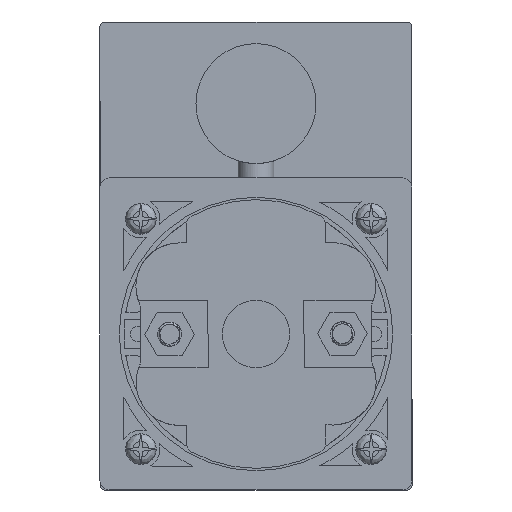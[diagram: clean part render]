
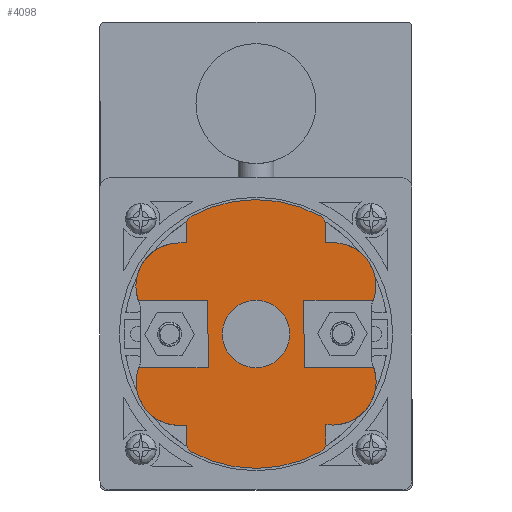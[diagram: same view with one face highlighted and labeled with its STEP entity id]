
A CAD part, front view. The second image highlights one B-rep face of the part: STEP entity #4098.
In plain terms, the highlighted planar face has unit normal (0, -1, 0).
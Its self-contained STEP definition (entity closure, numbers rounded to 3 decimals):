
#4098=ADVANCED_FACE('',(#9048,#9049),#4992,.F.);
#4992=PLANE('',#27135);
#6481=LINE('',#116121,#8249);
#6484=LINE('',#116127,#8252);
#6488=LINE('',#116139,#8256);
#6491=LINE('',#116147,#8259);
#6493=LINE('',#116151,#8261);
#6495=LINE('',#116155,#8263);
#6497=LINE('',#116171,#8265);
#6501=LINE('',#116192,#8269);
#6503=LINE('',#116209,#8271);
#6505=LINE('',#116213,#8273);
#6610=LINE('',#116503,#8378);
#6615=LINE('',#116515,#8383);
#6650=LINE('',#116629,#8418);
#6654=LINE('',#116651,#8422);
#8249=VECTOR('',#32302,1.);
#8252=VECTOR('',#32307,1.);
#8256=VECTOR('',#32319,1.);
#8259=VECTOR('',#32328,1.);
#8261=VECTOR('',#32332,1.);
#8263=VECTOR('',#32336,1.);
#8265=VECTOR('',#32344,1.);
#8269=VECTOR('',#32354,1.);
#8271=VECTOR('',#32364,1.);
#8273=VECTOR('',#32368,1.);
#8378=VECTOR('',#32649,1.);
#8383=VECTOR('',#32664,1.);
#8418=VECTOR('',#32765,1.);
#8422=VECTOR('',#32791,1.);
#9048=FACE_BOUND('',#10483,.T.);
#9049=FACE_BOUND('',#10484,.T.);
#10483=EDGE_LOOP('',(#16930,#16931,#16932,#16933,#16934,#16935,#16936,#16937,
#16938,#16939,#16940,#16941,#16942,#16943,#16944,#16945,#16946,#16947,#16948,
#16949,#16950,#16951,#16952,#16953,#16954));
#10484=EDGE_LOOP('',(#16955));
#16930=ORIENTED_EDGE('',*,*,#23523,.F.);
#16931=ORIENTED_EDGE('',*,*,#23521,.T.);
#16932=ORIENTED_EDGE('',*,*,#23517,.T.);
#16933=ORIENTED_EDGE('',*,*,#23668,.T.);
#16934=ORIENTED_EDGE('',*,*,#23736,.T.);
#16935=ORIENTED_EDGE('',*,*,#23737,.T.);
#16936=ORIENTED_EDGE('',*,*,#23738,.T.);
#16937=ORIENTED_EDGE('',*,*,#23676,.T.);
#16938=ORIENTED_EDGE('',*,*,#23513,.T.);
#16939=ORIENTED_EDGE('',*,*,#23510,.T.);
#16940=ORIENTED_EDGE('',*,*,#23507,.T.);
#16941=ORIENTED_EDGE('',*,*,#23505,.F.);
#16942=ORIENTED_EDGE('',*,*,#23503,.F.);
#16943=ORIENTED_EDGE('',*,*,#23501,.F.);
#16944=ORIENTED_EDGE('',*,*,#23499,.T.);
#16945=ORIENTED_EDGE('',*,*,#23497,.T.);
#16946=ORIENTED_EDGE('',*,*,#23729,.T.);
#16947=ORIENTED_EDGE('',*,*,#23739,.T.);
#16948=ORIENTED_EDGE('',*,*,#23740,.T.);
#16949=ORIENTED_EDGE('',*,*,#23741,.T.);
#16950=ORIENTED_EDGE('',*,*,#23742,.T.);
#16951=ORIENTED_EDGE('',*,*,#23525,.T.);
#16952=ORIENTED_EDGE('',*,*,#23494,.T.);
#16953=ORIENTED_EDGE('',*,*,#23491,.F.);
#16954=ORIENTED_EDGE('',*,*,#23488,.F.);
#16955=ORIENTED_EDGE('',*,*,#23487,.F.);
#20081=VERTEX_POINT('',#116119);
#20082=VERTEX_POINT('',#116122);
#20083=VERTEX_POINT('',#116123);
#20084=VERTEX_POINT('',#116128);
#20086=VERTEX_POINT('',#116134);
#20087=VERTEX_POINT('',#116138);
#20088=VERTEX_POINT('',#116140);
#20089=VERTEX_POINT('',#116144);
#20090=VERTEX_POINT('',#116148);
#20091=VERTEX_POINT('',#116152);
#20092=VERTEX_POINT('',#116156);
#20093=VERTEX_POINT('',#116160);
#20095=VERTEX_POINT('',#116172);
#20097=VERTEX_POINT('',#116184);
#20100=VERTEX_POINT('',#116191);
#20101=VERTEX_POINT('',#116193);
#20103=VERTEX_POINT('',#116206);
#20105=VERTEX_POINT('',#116214);
#20192=VERTEX_POINT('',#116501);
#20196=VERTEX_POINT('',#116516);
#20236=VERTEX_POINT('',#116627);
#20240=VERTEX_POINT('',#116641);
#20241=VERTEX_POINT('',#116643);
#20242=VERTEX_POINT('',#116646);
#20243=VERTEX_POINT('',#116648);
#20244=VERTEX_POINT('',#116650);
#23487=EDGE_CURVE('',#20081,#20081,#25015,.T.);
#23488=EDGE_CURVE('',#20082,#20083,#6481,.T.);
#23491=EDGE_CURVE('',#20083,#20084,#6484,.T.);
#23494=EDGE_CURVE('',#20086,#20084,#25017,.T.);
#23497=EDGE_CURVE('',#20088,#20087,#6488,.T.);
#23499=EDGE_CURVE('',#20089,#20088,#25018,.T.);
#23501=EDGE_CURVE('',#20089,#20090,#6491,.T.);
#23503=EDGE_CURVE('',#20090,#20091,#6493,.T.);
#23505=EDGE_CURVE('',#20091,#20092,#6495,.T.);
#23507=EDGE_CURVE('',#20093,#20092,#25019,.T.);
#23510=EDGE_CURVE('',#20095,#20093,#6497,.T.);
#23513=EDGE_CURVE('',#20097,#20095,#25020,.T.);
#23517=EDGE_CURVE('',#20101,#20100,#6501,.T.);
#23521=EDGE_CURVE('',#20103,#20101,#25022,.T.);
#23523=EDGE_CURVE('',#20103,#20082,#6503,.T.);
#23525=EDGE_CURVE('',#20105,#20086,#6505,.T.);
#23668=EDGE_CURVE('',#20100,#20192,#6610,.T.);
#23676=EDGE_CURVE('',#20196,#20097,#6615,.T.);
#23729=EDGE_CURVE('',#20087,#20236,#6650,.T.);
#23736=EDGE_CURVE('',#20192,#20240,#25082,.T.);
#23737=EDGE_CURVE('',#20240,#20241,#25083,.T.);
#23738=EDGE_CURVE('',#20241,#20196,#25084,.T.);
#23739=EDGE_CURVE('',#20236,#20242,#25085,.T.);
#23740=EDGE_CURVE('',#20242,#20243,#25086,.T.);
#23741=EDGE_CURVE('',#20243,#20244,#25087,.T.);
#23742=EDGE_CURVE('',#20244,#20105,#6654,.T.);
#25015=CIRCLE('',#26975,7.);
#25017=CIRCLE('',#26980,9.);
#25018=CIRCLE('',#26983,9.);
#25019=CIRCLE('',#26988,9.);
#25020=CIRCLE('',#26991,8.96);
#25022=CIRCLE('',#26995,9.);
#25082=CIRCLE('',#27129,2.);
#25083=CIRCLE('',#27130,28.);
#25084=CIRCLE('',#27131,2.);
#25085=CIRCLE('',#27132,2.);
#25086=CIRCLE('',#27133,28.);
#25087=CIRCLE('',#27134,2.);
#26975=AXIS2_PLACEMENT_3D('',#116118,#32298,#32299);
#26980=AXIS2_PLACEMENT_3D('',#116133,#32313,#32314);
#26983=AXIS2_PLACEMENT_3D('',#116143,#32323,#32324);
#26988=AXIS2_PLACEMENT_3D('',#116159,#32340,#32341);
#26991=AXIS2_PLACEMENT_3D('',#116183,#32347,#32348);
#26995=AXIS2_PLACEMENT_3D('',#116205,#32359,#32360);
#27129=AXIS2_PLACEMENT_3D('',#116640,#32779,#32780);
#27130=AXIS2_PLACEMENT_3D('',#116642,#32781,#32782);
#27131=AXIS2_PLACEMENT_3D('',#116644,#32783,#32784);
#27132=AXIS2_PLACEMENT_3D('',#116645,#32785,#32786);
#27133=AXIS2_PLACEMENT_3D('',#116647,#32787,#32788);
#27134=AXIS2_PLACEMENT_3D('',#116649,#32789,#32790);
#27135=AXIS2_PLACEMENT_3D('',#116652,#32792,#32793);
#32298=DIRECTION('',(0.,-1.,0.));
#32299=DIRECTION('',(-1.,0.,-0.003));
#32302=DIRECTION('',(-0.003,0.,1.));
#32307=DIRECTION('',(-1.,0.,-0.003));
#32313=DIRECTION('',(0.,-1.,0.));
#32314=DIRECTION('',(-1.,0.,-0.003));
#32319=DIRECTION('',(-1.,0.,-0.003));
#32323=DIRECTION('',(0.,-1.,0.));
#32324=DIRECTION('',(1.,0.,0.003));
#32328=DIRECTION('',(-1.,0.,-0.003));
#32332=DIRECTION('',(0.003,0.,-1.));
#32336=DIRECTION('',(1.,0.,0.003));
#32340=DIRECTION('',(0.,-1.,0.));
#32341=DIRECTION('',(0.,0.,-1.));
#32344=DIRECTION('',(1.,0.,0.003));
#32347=DIRECTION('',(0.,-1.,0.));
#32348=DIRECTION('',(0.,0.,-1.));
#32354=DIRECTION('',(1.,0.,0.003));
#32359=DIRECTION('',(0.,-1.,0.));
#32360=DIRECTION('',(-0.89,0.,0.456));
#32364=DIRECTION('',(1.,0.,0.003));
#32368=DIRECTION('',(-1.,0.,-0.003));
#32649=DIRECTION('',(0.003,0.,-1.));
#32664=DIRECTION('',(-0.003,0.,1.));
#32765=DIRECTION('',(-0.003,0.,1.));
#32779=DIRECTION('',(0.,-1.,0.));
#32780=DIRECTION('',(1.,0.,0.003));
#32781=DIRECTION('',(0.,-1.,0.));
#32782=DIRECTION('',(1.,0.,0.003));
#32783=DIRECTION('',(0.,-1.,0.));
#32784=DIRECTION('',(1.,0.,0.003));
#32785=DIRECTION('',(0.,-1.,0.));
#32786=DIRECTION('',(1.,0.,0.003));
#32787=DIRECTION('',(0.,-1.,0.));
#32788=DIRECTION('',(1.,0.,0.003));
#32789=DIRECTION('',(0.,-1.,0.));
#32790=DIRECTION('',(1.,0.,0.003));
#32791=DIRECTION('',(0.003,0.,-1.));
#32792=DIRECTION('',(0.,1.,0.));
#32793=DIRECTION('',(0.,0.,1.));
#116118=CARTESIAN_POINT('',(0.,-94.6,0.));
#116119=CARTESIAN_POINT('',(-7.,-94.6,-0.018));
#116121=CARTESIAN_POINT('',(-9.982,-94.6,-7.026));
#116122=CARTESIAN_POINT('',(-9.982,-94.6,-7.026));
#116123=CARTESIAN_POINT('',(-10.018,-94.6,6.974));
#116127=CARTESIAN_POINT('',(-10.018,-94.6,6.974));
#116128=CARTESIAN_POINT('',(-24.503,-94.6,6.937));
#116133=CARTESIAN_POINT('',(-16.026,-94.6,9.959));
#116134=CARTESIAN_POINT('',(-16.049,-94.6,18.959));
#116138=CARTESIAN_POINT('',(14.451,-94.6,19.037));
#116139=CARTESIAN_POINT('',(15.951,-94.6,19.041));
#116140=CARTESIAN_POINT('',(15.951,-94.6,19.041));
#116143=CARTESIAN_POINT('',(15.974,-94.6,10.041));
#116144=CARTESIAN_POINT('',(24.467,-94.6,7.063));
#116147=CARTESIAN_POINT('',(34.164,-94.6,7.088));
#116148=CARTESIAN_POINT('',(9.982,-94.6,7.026));
#116151=CARTESIAN_POINT('',(9.982,-94.6,7.026));
#116152=CARTESIAN_POINT('',(10.018,-94.6,-6.974));
#116155=CARTESIAN_POINT('',(10.018,-94.6,-6.974));
#116156=CARTESIAN_POINT('',(24.503,-94.6,-6.937));
#116159=CARTESIAN_POINT('',(16.026,-94.6,-9.959));
#116160=CARTESIAN_POINT('',(16.119,-94.6,-18.958));
#116171=CARTESIAN_POINT('',(23.752,-94.6,-18.938));
#116172=CARTESIAN_POINT('',(15.978,-94.6,-18.959));
#116183=CARTESIAN_POINT('',(16.02,-94.6,-9.999));
#116184=CARTESIAN_POINT('',(14.548,-94.6,-18.837));
#116191=CARTESIAN_POINT('',(-14.451,-94.6,-19.037));
#116192=CARTESIAN_POINT('',(23.753,-94.6,-18.934));
#116193=CARTESIAN_POINT('',(-15.951,-94.6,-19.041));
#116205=CARTESIAN_POINT('',(-15.974,-94.6,-10.041));
#116206=CARTESIAN_POINT('',(-24.468,-94.6,-7.063));
#116209=CARTESIAN_POINT('',(-34.164,-94.6,-7.088));
#116213=CARTESIAN_POINT('',(-14.549,-94.6,18.963));
#116214=CARTESIAN_POINT('',(-14.549,-94.6,18.963));
#116501=CARTESIAN_POINT('',(-14.441,-94.6,-22.835));
#116503=CARTESIAN_POINT('',(-14.451,-94.6,-19.037));
#116515=CARTESIAN_POINT('',(14.558,-94.6,-22.761));
#116516=CARTESIAN_POINT('',(14.558,-94.6,-22.761));
#116627=CARTESIAN_POINT('',(14.441,-94.6,22.835));
#116629=CARTESIAN_POINT('',(14.451,-94.6,19.037));
#116640=CARTESIAN_POINT('',(-12.441,-94.6,-22.83));
#116641=CARTESIAN_POINT('',(-13.398,-94.6,-24.586));
#116642=CARTESIAN_POINT('',(0.,-94.6,0.));
#116643=CARTESIAN_POINT('',(13.525,-94.6,-24.517));
#116644=CARTESIAN_POINT('',(12.558,-94.6,-22.766));
#116645=CARTESIAN_POINT('',(12.441,-94.6,22.83));
#116646=CARTESIAN_POINT('',(13.398,-94.6,24.586));
#116647=CARTESIAN_POINT('',(0.,-94.6,0.));
#116648=CARTESIAN_POINT('',(-13.525,-94.6,24.517));
#116649=CARTESIAN_POINT('',(-12.558,-94.6,22.766));
#116650=CARTESIAN_POINT('',(-14.558,-94.6,22.761));
#116651=CARTESIAN_POINT('',(-14.558,-94.6,22.761));
#116652=CARTESIAN_POINT('',(23.741,-94.6,-14.593));
